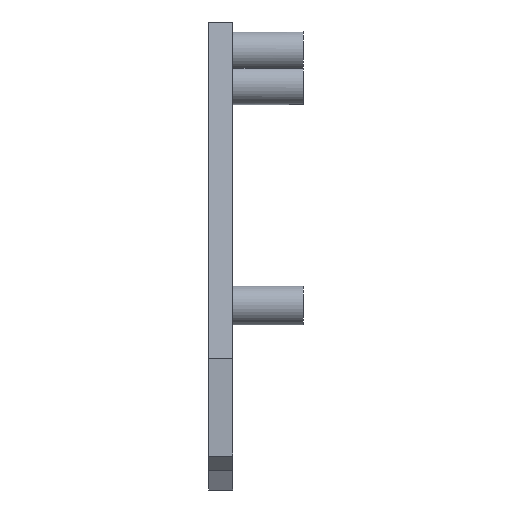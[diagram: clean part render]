
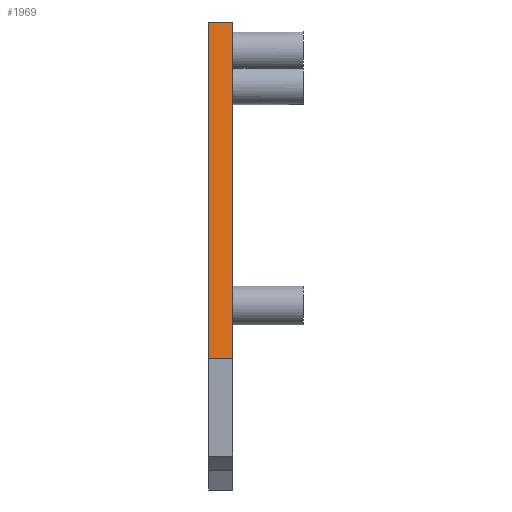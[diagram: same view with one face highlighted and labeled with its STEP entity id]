
A CAD part, front view. The second image highlights one B-rep face of the part: STEP entity #1969.
In plain terms, the highlighted planar face has unit normal (0, -0.989, 0.15).
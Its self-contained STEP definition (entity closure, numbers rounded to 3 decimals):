
#44 = PLANE('',#45);
#45 = AXIS2_PLACEMENT_3D('',#46,#47,#48);
#46 = CARTESIAN_POINT('',(27.5,-27.8,-277.));
#47 = DIRECTION('',(-0.,1.,0.));
#48 = DIRECTION('',(0.,0.,-1.));
#72 = PLANE('',#73);
#73 = AXIS2_PLACEMENT_3D('',#74,#75,#76);
#74 = CARTESIAN_POINT('',(32.5,31.225,-257.251));
#75 = DIRECTION('',(1.,0.,0.));
#76 = DIRECTION('',(-0.,0.,1.));
#126 = PLANE('',#127);
#127 = AXIS2_PLACEMENT_3D('',#128,#129,#130);
#128 = CARTESIAN_POINT('',(27.5,31.225,-257.251));
#129 = DIRECTION('',(1.,0.,0.));
#130 = DIRECTION('',(-0.,0.,1.));
#141 = EDGE_CURVE('',#142,#144,#146,.T.);
#142 = VERTEX_POINT('',#143);
#143 = CARTESIAN_POINT('',(27.5,-27.8,-277.));
#144 = VERTEX_POINT('',#145);
#145 = CARTESIAN_POINT('',(32.5,-27.8,-277.));
#146 = SURFACE_CURVE('',#147,(#151,#158),.PCURVE_S1.);
#147 = LINE('',#148,#149);
#148 = CARTESIAN_POINT('',(27.5,-27.8,-277.));
#149 = VECTOR('',#150,1.);
#150 = DIRECTION('',(1.,0.,0.));
#151 = PCURVE('',#44,#152);
#152 = DEFINITIONAL_REPRESENTATION('',(#153),#157);
#153 = LINE('',#154,#155);
#154 = CARTESIAN_POINT('',(0.,0.));
#155 = VECTOR('',#156,1.);
#156 = DIRECTION('',(0.,-1.));
#157 = ( GEOMETRIC_REPRESENTATION_CONTEXT(2) 
PARAMETRIC_REPRESENTATION_CONTEXT() REPRESENTATION_CONTEXT('2D SPACE',''
  ) );
#158 = PCURVE('',#159,#164);
#159 = PLANE('',#160);
#160 = AXIS2_PLACEMENT_3D('',#161,#162,#163);
#161 = CARTESIAN_POINT('',(27.5,-17.3,-207.637));
#162 = DIRECTION('',(0.,0.989,-0.15));
#163 = DIRECTION('',(0.,-0.15,-0.989));
#164 = DEFINITIONAL_REPRESENTATION('',(#165),#169);
#165 = LINE('',#166,#167);
#166 = CARTESIAN_POINT('',(70.154,0.));
#167 = VECTOR('',#168,1.);
#168 = DIRECTION('',(0.,-1.));
#169 = ( GEOMETRIC_REPRESENTATION_CONTEXT(2) 
PARAMETRIC_REPRESENTATION_CONTEXT() REPRESENTATION_CONTEXT('2D SPACE',''
  ) );
#543 = VERTEX_POINT('',#544);
#544 = CARTESIAN_POINT('',(27.5,-17.3,-207.637));
#558 = PLANE('',#559);
#559 = AXIS2_PLACEMENT_3D('',#560,#561,#562);
#560 = CARTESIAN_POINT('',(27.5,14.7,-207.637));
#561 = DIRECTION('',(0.,0.,-1.));
#562 = DIRECTION('',(0.,-1.,0.));
#570 = EDGE_CURVE('',#543,#142,#571,.T.);
#571 = SURFACE_CURVE('',#572,(#576,#583),.PCURVE_S1.);
#572 = LINE('',#573,#574);
#573 = CARTESIAN_POINT('',(27.5,-17.3,-207.637));
#574 = VECTOR('',#575,1.);
#575 = DIRECTION('',(0.,-0.15,-0.989));
#576 = PCURVE('',#126,#577);
#577 = DEFINITIONAL_REPRESENTATION('',(#578),#582);
#578 = LINE('',#579,#580);
#579 = CARTESIAN_POINT('',(49.614,48.525));
#580 = VECTOR('',#581,1.);
#581 = DIRECTION('',(-0.989,0.15));
#582 = ( GEOMETRIC_REPRESENTATION_CONTEXT(2) 
PARAMETRIC_REPRESENTATION_CONTEXT() REPRESENTATION_CONTEXT('2D SPACE',''
  ) );
#583 = PCURVE('',#159,#584);
#584 = DEFINITIONAL_REPRESENTATION('',(#585),#589);
#585 = LINE('',#586,#587);
#586 = CARTESIAN_POINT('',(0.,0.));
#587 = VECTOR('',#588,1.);
#588 = DIRECTION('',(1.,0.));
#589 = ( GEOMETRIC_REPRESENTATION_CONTEXT(2) 
PARAMETRIC_REPRESENTATION_CONTEXT() REPRESENTATION_CONTEXT('2D SPACE',''
  ) );
#1216 = VERTEX_POINT('',#1217);
#1217 = CARTESIAN_POINT('',(32.5,-17.3,-207.637));
#1238 = EDGE_CURVE('',#1216,#144,#1239,.T.);
#1239 = SURFACE_CURVE('',#1240,(#1244,#1251),.PCURVE_S1.);
#1240 = LINE('',#1241,#1242);
#1241 = CARTESIAN_POINT('',(32.5,-17.3,-207.637));
#1242 = VECTOR('',#1243,1.);
#1243 = DIRECTION('',(0.,-0.15,-0.989));
#1244 = PCURVE('',#72,#1245);
#1245 = DEFINITIONAL_REPRESENTATION('',(#1246),#1250);
#1246 = LINE('',#1247,#1248);
#1247 = CARTESIAN_POINT('',(49.614,48.525));
#1248 = VECTOR('',#1249,1.);
#1249 = DIRECTION('',(-0.989,0.15));
#1250 = ( GEOMETRIC_REPRESENTATION_CONTEXT(2) 
PARAMETRIC_REPRESENTATION_CONTEXT() REPRESENTATION_CONTEXT('2D SPACE',''
  ) );
#1251 = PCURVE('',#159,#1252);
#1252 = DEFINITIONAL_REPRESENTATION('',(#1253),#1257);
#1253 = LINE('',#1254,#1255);
#1254 = CARTESIAN_POINT('',(0.,-5.));
#1255 = VECTOR('',#1256,1.);
#1256 = DIRECTION('',(1.,0.));
#1257 = ( GEOMETRIC_REPRESENTATION_CONTEXT(2) 
PARAMETRIC_REPRESENTATION_CONTEXT() REPRESENTATION_CONTEXT('2D SPACE',''
  ) );
#1969 = ADVANCED_FACE('',(#1970),#159,.F.);
#1970 = FACE_BOUND('',#1971,.F.);
#1971 = EDGE_LOOP('',(#1972,#1993,#1994,#1995));
#1972 = ORIENTED_EDGE('',*,*,#1973,.T.);
#1973 = EDGE_CURVE('',#543,#1216,#1974,.T.);
#1974 = SURFACE_CURVE('',#1975,(#1979,#1986),.PCURVE_S1.);
#1975 = LINE('',#1976,#1977);
#1976 = CARTESIAN_POINT('',(27.5,-17.3,-207.637));
#1977 = VECTOR('',#1978,1.);
#1978 = DIRECTION('',(1.,0.,0.));
#1979 = PCURVE('',#159,#1980);
#1980 = DEFINITIONAL_REPRESENTATION('',(#1981),#1985);
#1981 = LINE('',#1982,#1983);
#1982 = CARTESIAN_POINT('',(0.,0.));
#1983 = VECTOR('',#1984,1.);
#1984 = DIRECTION('',(0.,-1.));
#1985 = ( GEOMETRIC_REPRESENTATION_CONTEXT(2) 
PARAMETRIC_REPRESENTATION_CONTEXT() REPRESENTATION_CONTEXT('2D SPACE',''
  ) );
#1986 = PCURVE('',#558,#1987);
#1987 = DEFINITIONAL_REPRESENTATION('',(#1988),#1992);
#1988 = LINE('',#1989,#1990);
#1989 = CARTESIAN_POINT('',(32.,0.));
#1990 = VECTOR('',#1991,1.);
#1991 = DIRECTION('',(0.,-1.));
#1992 = ( GEOMETRIC_REPRESENTATION_CONTEXT(2) 
PARAMETRIC_REPRESENTATION_CONTEXT() REPRESENTATION_CONTEXT('2D SPACE',''
  ) );
#1993 = ORIENTED_EDGE('',*,*,#1238,.T.);
#1994 = ORIENTED_EDGE('',*,*,#141,.F.);
#1995 = ORIENTED_EDGE('',*,*,#570,.F.);
